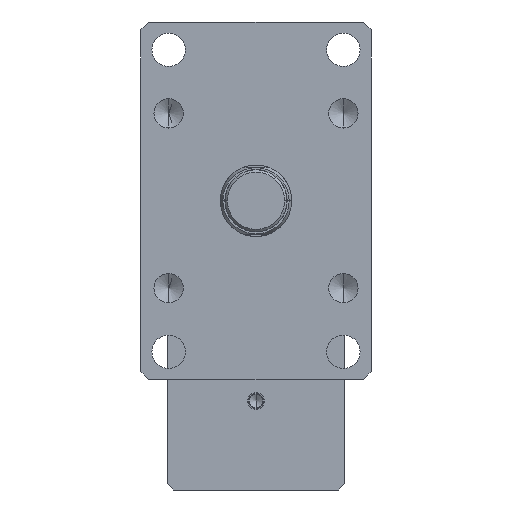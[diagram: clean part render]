
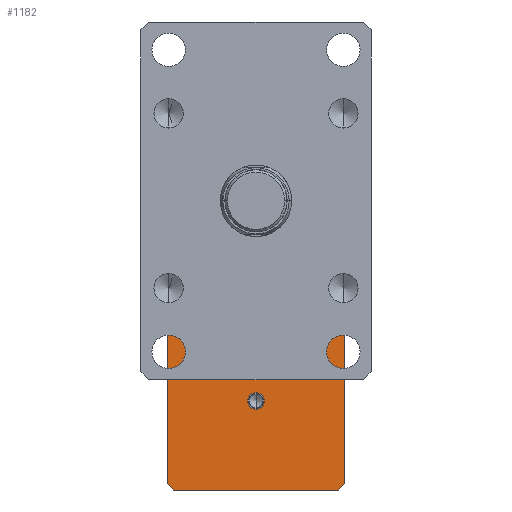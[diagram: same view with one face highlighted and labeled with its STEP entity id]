
A CAD part, left-side view. The second image highlights one B-rep face of the part: STEP entity #1182.
In plain terms, the highlighted planar face has unit normal (-1, 0, 0).
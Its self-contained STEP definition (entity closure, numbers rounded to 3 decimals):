
#249 = ORIENTED_EDGE ( 'NONE', *, *, #1149, .T. ) ;
#529 = CARTESIAN_POINT ( 'NONE',  ( 425., 0., -126. ) ) ;
#603 = DIRECTION ( 'NONE',  ( 0., -0.707, 0.707 ) ) ;
#691 = ORIENTED_EDGE ( 'NONE', *, *, #8016, .T. ) ;
#700 = FACE_BOUND ( 'NONE', #2219, .T. ) ;
#729 = CARTESIAN_POINT ( 'NONE',  ( 425., 52., -70. ) ) ;
#748 = EDGE_CURVE ( 'NONE', #4407, #9371, #2972, .T. ) ;
#776 = VERTEX_POINT ( 'NONE', #4388 ) ;
#833 = DIRECTION ( 'NONE',  ( -1., 0., 0. ) ) ;
#1149 = EDGE_CURVE ( 'NONE', #7944, #9097, #6204, .T. ) ;
#1182 = ADVANCED_FACE ( 'NONE', ( #700, #8526 ), #9983, .F. ) ;
#1235 = ORIENTED_EDGE ( 'NONE', *, *, #10391, .T. ) ;
#1312 = VECTOR ( 'NONE', #11821, 1000. ) ;
#1493 = DIRECTION ( 'NONE',  ( 0., 0., 1. ) ) ;
#1551 = CARTESIAN_POINT ( 'NONE',  ( 425., 52., -182. ) ) ;
#1652 = DIRECTION ( 'NONE',  ( 0., 0., 1. ) ) ;
#1926 = ORIENTED_EDGE ( 'NONE', *, *, #6836, .F. ) ;
#2219 = EDGE_LOOP ( 'NONE', ( #11990, #1926 ) ) ;
#2380 = VECTOR ( 'NONE', #2408, 1000. ) ;
#2408 = DIRECTION ( 'NONE',  ( 0., 1., 0. ) ) ;
#2437 = CARTESIAN_POINT ( 'NONE',  ( 425., -56., -178. ) ) ;
#2496 = CARTESIAN_POINT ( 'NONE',  ( 425., -52., -182. ) ) ;
#2734 = EDGE_CURVE ( 'NONE', #12489, #7996, #6246, .T. ) ;
#2810 = EDGE_CURVE ( 'NONE', #12046, #12060, #10292, .T. ) ;
#2972 = LINE ( 'NONE', #9322, #2380 ) ;
#3206 = VECTOR ( 'NONE', #4672, 1000. ) ;
#3496 = CARTESIAN_POINT ( 'NONE',  ( 425., -56., -182. ) ) ;
#3625 = CARTESIAN_POINT ( 'NONE',  ( 425., -56., -74. ) ) ;
#4068 = CARTESIAN_POINT ( 'NONE',  ( 425., -56., -182. ) ) ;
#4222 = CARTESIAN_POINT ( 'NONE',  ( 425., 56., -178. ) ) ;
#4299 = VECTOR ( 'NONE', #7599, 1000. ) ;
#4388 = CARTESIAN_POINT ( 'NONE',  ( 425., 0., -120.857 ) ) ;
#4407 = VERTEX_POINT ( 'NONE', #4823 ) ;
#4672 = DIRECTION ( 'NONE',  ( 0., -0.707, -0.707 ) ) ;
#4823 = CARTESIAN_POINT ( 'NONE',  ( 425., -52., -70. ) ) ;
#4897 = CARTESIAN_POINT ( 'NONE',  ( 425., -56., -182. ) ) ;
#5004 = VECTOR ( 'NONE', #1652, 1000. ) ;
#5042 = DIRECTION ( 'NONE',  ( 0., 0., -1. ) ) ;
#5579 = LINE ( 'NONE', #12416, #10558 ) ;
#5672 = EDGE_CURVE ( 'NONE', #776, #7990, #12548, .T. ) ;
#5715 = AXIS2_PLACEMENT_3D ( 'NONE', #6694, #833, #7677 ) ;
#5866 = AXIS2_PLACEMENT_3D ( 'NONE', #4068, #10991, #5042 ) ;
#6204 = LINE ( 'NONE', #4897, #1312 ) ;
#6246 = LINE ( 'NONE', #3496, #8265 ) ;
#6599 = VECTOR ( 'NONE', #9295, 1000. ) ;
#6694 = CARTESIAN_POINT ( 'NONE',  ( 425., 0., -126. ) ) ;
#6798 = EDGE_CURVE ( 'NONE', #9371, #12060, #9235, .T. ) ;
#6836 = EDGE_CURVE ( 'NONE', #7990, #776, #7537, .T. ) ;
#7391 = DIRECTION ( 'NONE',  ( -1., 0., 0. ) ) ;
#7537 = CIRCLE ( 'NONE', #11388, 5.143 ) ;
#7547 = ORIENTED_EDGE ( 'NONE', *, *, #2810, .F. ) ;
#7565 = CARTESIAN_POINT ( 'NONE',  ( 425., 56., -182. ) ) ;
#7599 = DIRECTION ( 'NONE',  ( 0., 0.707, 0.707 ) ) ;
#7614 = CARTESIAN_POINT ( 'NONE',  ( 425., 52., -182. ) ) ;
#7677 = DIRECTION ( 'NONE',  ( 0., 0., 1. ) ) ;
#7944 = VERTEX_POINT ( 'NONE', #2437 ) ;
#7973 = ORIENTED_EDGE ( 'NONE', *, *, #2734, .F. ) ;
#7990 = VERTEX_POINT ( 'NONE', #11387 ) ;
#7996 = VERTEX_POINT ( 'NONE', #1551 ) ;
#8016 = EDGE_CURVE ( 'NONE', #9097, #4407, #9561, .T. ) ;
#8225 = CARTESIAN_POINT ( 'NONE',  ( 425., 56., -74. ) ) ;
#8265 = VECTOR ( 'NONE', #12422, 1000. ) ;
#8467 = LINE ( 'NONE', #7614, #3206 ) ;
#8526 = FACE_OUTER_BOUND ( 'NONE', #10871, .T. ) ;
#9097 = VERTEX_POINT ( 'NONE', #10020 ) ;
#9235 = LINE ( 'NONE', #11308, #6599 ) ;
#9295 = DIRECTION ( 'NONE',  ( 0., 0.707, -0.707 ) ) ;
#9322 = CARTESIAN_POINT ( 'NONE',  ( 425., -56., -70. ) ) ;
#9371 = VERTEX_POINT ( 'NONE', #729 ) ;
#9457 = ORIENTED_EDGE ( 'NONE', *, *, #11616, .T. ) ;
#9561 = LINE ( 'NONE', #3625, #4299 ) ;
#9983 = PLANE ( 'NONE',  #5866 ) ;
#10020 = CARTESIAN_POINT ( 'NONE',  ( 425., -56., -74. ) ) ;
#10024 = ORIENTED_EDGE ( 'NONE', *, *, #748, .T. ) ;
#10292 = LINE ( 'NONE', #7565, #5004 ) ;
#10391 = EDGE_CURVE ( 'NONE', #12046, #7996, #8467, .T. ) ;
#10558 = VECTOR ( 'NONE', #603, 1000. ) ;
#10794 = ORIENTED_EDGE ( 'NONE', *, *, #6798, .T. ) ;
#10871 = EDGE_LOOP ( 'NONE', ( #249, #691, #10024, #10794, #7547, #1235, #7973, #9457 ) ) ;
#10991 = DIRECTION ( 'NONE',  ( 1., 0., 0. ) ) ;
#11308 = CARTESIAN_POINT ( 'NONE',  ( 425., 56., -74. ) ) ;
#11387 = CARTESIAN_POINT ( 'NONE',  ( 425., 0., -131.143 ) ) ;
#11388 = AXIS2_PLACEMENT_3D ( 'NONE', #529, #7391, #1493 ) ;
#11616 = EDGE_CURVE ( 'NONE', #12489, #7944, #5579, .T. ) ;
#11821 = DIRECTION ( 'NONE',  ( 0., 0., 1. ) ) ;
#11990 = ORIENTED_EDGE ( 'NONE', *, *, #5672, .F. ) ;
#12046 = VERTEX_POINT ( 'NONE', #4222 ) ;
#12060 = VERTEX_POINT ( 'NONE', #8225 ) ;
#12416 = CARTESIAN_POINT ( 'NONE',  ( 425., -52., -182. ) ) ;
#12422 = DIRECTION ( 'NONE',  ( 0., 1., 0. ) ) ;
#12489 = VERTEX_POINT ( 'NONE', #2496 ) ;
#12548 = CIRCLE ( 'NONE', #5715, 5.143 ) ;
